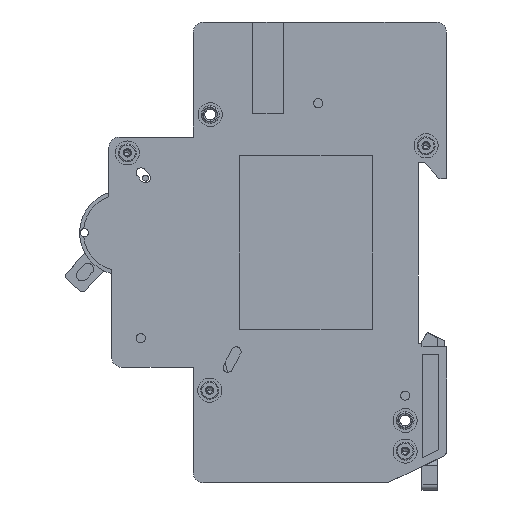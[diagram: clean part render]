
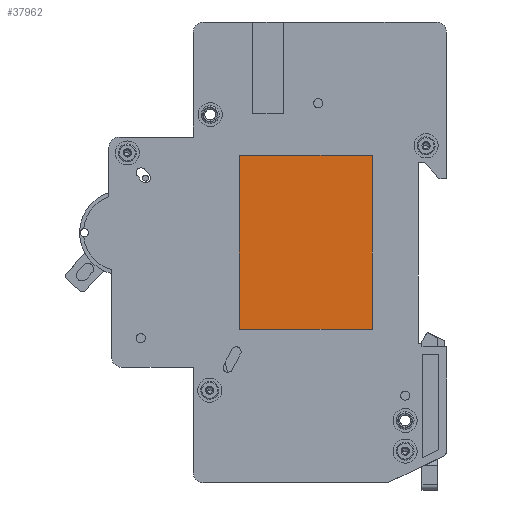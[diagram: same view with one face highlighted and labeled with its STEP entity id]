
A CAD part, left-side view. The second image highlights one B-rep face of the part: STEP entity #37962.
In plain terms, the highlighted planar face has unit normal (-1, 0, 0) as drawn and (0, 0, -1) by its records, which use the part's own axes.
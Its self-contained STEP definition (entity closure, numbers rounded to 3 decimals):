
#1063 = EDGE_LOOP ( 'NONE', ( #17471, #22652, #43459, #25934 ) ) ;
#3315 = CARTESIAN_POINT ( 'NONE',  ( 0., 0., 0. ) ) ;
#4373 = VECTOR ( 'NONE', #25719, 1000. ) ;
#7368 = AXIS2_PLACEMENT_3D ( 'NONE', #43682, #14760, #25713 ) ;
#7603 = LINE ( 'NONE', #20531, #10957 ) ;
#10957 = VECTOR ( 'NONE', #31310, 1000. ) ;
#11446 = VERTEX_POINT ( 'NONE', #38646 ) ;
#12019 = DIRECTION ( 'NONE',  ( 0., 1., 0. ) ) ;
#13357 = LINE ( 'NONE', #25875, #4373 ) ;
#14760 = DIRECTION ( 'NONE',  ( 0., 0., -1. ) ) ;
#16553 = CARTESIAN_POINT ( 'NONE',  ( 34., 0., 0. ) ) ;
#17471 = ORIENTED_EDGE ( 'NONE', *, *, #41354, .F. ) ;
#19256 = EDGE_CURVE ( 'NONE', #11446, #28655, #33971, .T. ) ;
#19568 = DIRECTION ( 'NONE',  ( -1., 0., 0. ) ) ;
#20016 = VERTEX_POINT ( 'NONE', #3315 ) ;
#20214 = CARTESIAN_POINT ( 'NONE',  ( 0., 26., 0. ) ) ;
#20531 = CARTESIAN_POINT ( 'NONE',  ( 0., 0., 0. ) ) ;
#22652 = ORIENTED_EDGE ( 'NONE', *, *, #19256, .F. ) ;
#23325 = EDGE_CURVE ( 'NONE', #20016, #37164, #7603, .T. ) ;
#24327 = VECTOR ( 'NONE', #19568, 1000. ) ;
#25713 = DIRECTION ( 'NONE',  ( 0., -1., 0. ) ) ;
#25719 = DIRECTION ( 'NONE',  ( 0., -1., 0. ) ) ;
#25875 = CARTESIAN_POINT ( 'NONE',  ( 0., 0., 0. ) ) ;
#25934 = ORIENTED_EDGE ( 'NONE', *, *, #23325, .F. ) ;
#28655 = VERTEX_POINT ( 'NONE', #43619 ) ;
#28685 = EDGE_CURVE ( 'NONE', #37164, #11446, #40311, .T. ) ;
#29193 = PLANE ( 'NONE',  #7368 ) ;
#30698 = VECTOR ( 'NONE', #12019, 1000. ) ;
#31310 = DIRECTION ( 'NONE',  ( 1., 0., 0. ) ) ;
#33971 = LINE ( 'NONE', #20214, #24327 ) ;
#36877 = FACE_OUTER_BOUND ( 'NONE', #1063, .T. ) ;
#37164 = VERTEX_POINT ( 'NONE', #16553 ) ;
#37173 = CARTESIAN_POINT ( 'NONE',  ( 34., 0., 0. ) ) ;
#37962 = ADVANCED_FACE ( 'NONE', ( #36877 ), #29193, .T. ) ;
#38646 = CARTESIAN_POINT ( 'NONE',  ( 34., 26., 0. ) ) ;
#40311 = LINE ( 'NONE', #37173, #30698 ) ;
#41354 = EDGE_CURVE ( 'NONE', #28655, #20016, #13357, .T. ) ;
#43459 = ORIENTED_EDGE ( 'NONE', *, *, #28685, .F. ) ;
#43619 = CARTESIAN_POINT ( 'NONE',  ( 0., 26., 0. ) ) ;
#43682 = CARTESIAN_POINT ( 'NONE',  ( 0., 0., 0. ) ) ;
